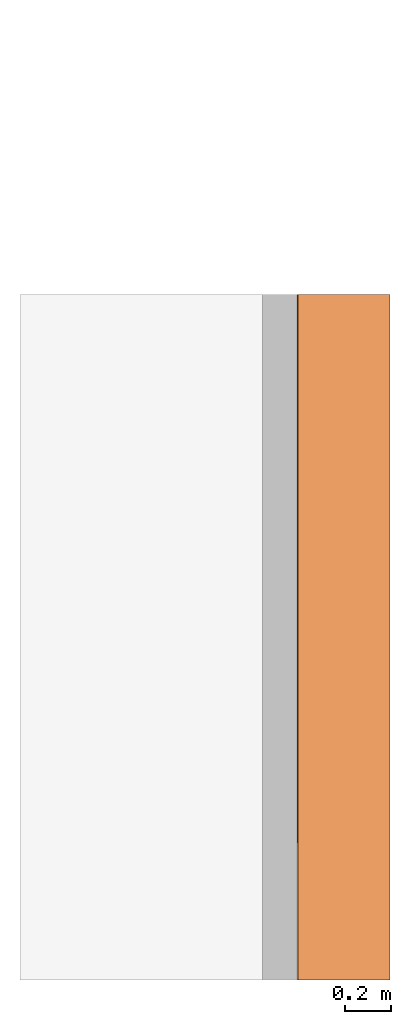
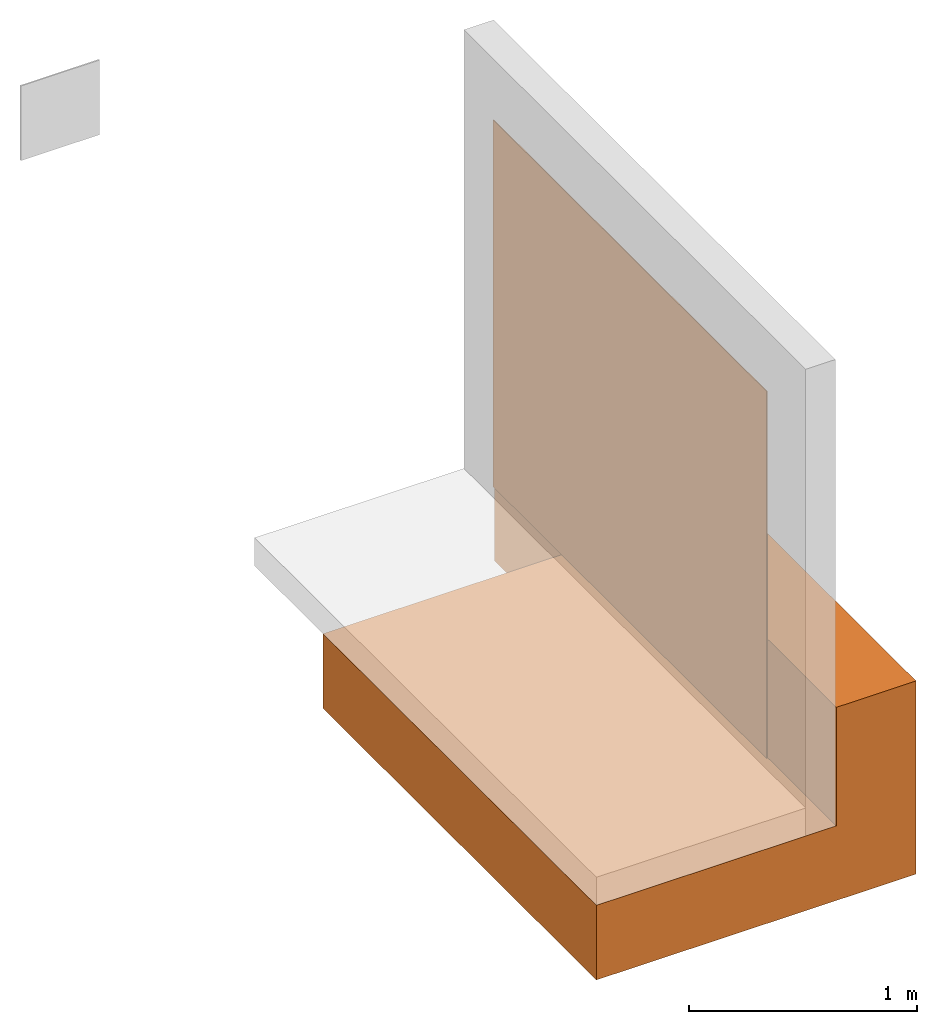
# One storey, part 2 of 2: 1 proxy.
"""IFC2X3 building model written with IfcOpenShell, lengths in metres."""

from ifc_helpers import new_model, entity, si_unit, converted_unit, derived_unit, direction, frame, frame_2d, origin, place, context, subcontext, project, spatial, polyline, circle_curve, parameter, trimmed, segment, composite_curve, rectangle, outline, extrude, source, transform, mapped, material, material_list, type_object, type_shapes, element, save


model = new_model("IFC2X3")

# Units and contexts
model_context = context("Model", 3, precision=1e-05, world=origin(), true_north=direction((6.123031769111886e-17, 1.0)))
body_context = subcontext(model_context, "Body", "Model", "MODEL_VIEW")
ifc_project = project(units=[si_unit("LENGTHUNIT", "METRE"), si_unit("AREAUNIT", "SQUARE_METRE"), si_unit("VOLUMEUNIT", "CUBIC_METRE"), converted_unit("PLANEANGLEUNIT", "DEGREE", entity("IfcRatioMeasure", 0.017453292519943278), si_unit("PLANEANGLEUNIT", "RADIAN"), dimensions=[0, 0, 0, 0, 0, 0, 0]), si_unit("MASSUNIT", "GRAM", prefix="KILO"), derived_unit("MASSDENSITYUNIT", [(si_unit("MASSUNIT", "GRAM", prefix="KILO"), 1), (si_unit("LENGTHUNIT", "METRE"), -3)]), derived_unit("IONCONCENTRATIONUNIT", [(si_unit("MASSUNIT", "GRAM", prefix="KILO"), 1), (si_unit("LENGTHUNIT", "METRE"), -3)]), derived_unit("MOMENTOFINERTIAUNIT", [(si_unit("LENGTHUNIT", "METRE"), 4)]), si_unit("TIMEUNIT", "SECOND"), si_unit("FREQUENCYUNIT", "HERTZ"), si_unit("THERMODYNAMICTEMPERATUREUNIT", "DEGREE_CELSIUS"), derived_unit("THERMALTRANSMITTANCEUNIT", [(si_unit("MASSUNIT", "GRAM", prefix="KILO"), 1), (si_unit("THERMODYNAMICTEMPERATUREUNIT", "KELVIN"), -1), (si_unit("TIMEUNIT", "SECOND"), -3)]), derived_unit("THERMALCONDUCTANCEUNIT", [(si_unit("MASSUNIT", "GRAM", prefix="KILO"), 1), (si_unit("THERMODYNAMICTEMPERATUREUNIT", "KELVIN"), -1), (si_unit("TIMEUNIT", "SECOND"), -3), (si_unit("LENGTHUNIT", "METRE"), 1)]), derived_unit("VOLUMETRICFLOWRATEUNIT", [(si_unit("LENGTHUNIT", "METRE"), 3), (si_unit("TIMEUNIT", "SECOND"), -1)]), derived_unit("MASSFLOWRATEUNIT", [(si_unit("MASSUNIT", "GRAM", prefix="KILO"), 1), (si_unit("TIMEUNIT", "SECOND"), -1)]), derived_unit("ROTATIONALFREQUENCYUNIT", [(si_unit("TIMEUNIT", "SECOND"), -1)]), si_unit("ELECTRICCURRENTUNIT", "AMPERE"), si_unit("ELECTRICVOLTAGEUNIT", "VOLT"), si_unit("POWERUNIT", "WATT"), si_unit("FORCEUNIT", "NEWTON", prefix="KILO"), si_unit("ILLUMINANCEUNIT", "LUX"), si_unit("LUMINOUSFLUXUNIT", "LUMEN"), si_unit("LUMINOUSINTENSITYUNIT", "CANDELA"), derived_unit("USERDEFINED", [(si_unit("MASSUNIT", "GRAM", prefix="KILO"), -1), (si_unit("LENGTHUNIT", "METRE"), -2), (si_unit("TIMEUNIT", "SECOND"), 3), (si_unit("LUMINOUSFLUXUNIT", "LUMEN"), 1)]), derived_unit("USERDEFINED", [(si_unit("MASSUNIT", "GRAM", prefix="KILO"), 1), (si_unit("TIMEUNIT", "SECOND"), -3), (si_unit("LENGTHUNIT", "METRE"), 3), (si_unit("ELECTRICCURRENTUNIT", "AMPERE"), -2)]), derived_unit("SOUNDPOWERUNIT", [(si_unit("MASSUNIT", "GRAM", prefix="KILO"), 1), (si_unit("TIMEUNIT", "SECOND"), -3), (si_unit("LENGTHUNIT", "METRE"), 2)]), derived_unit("SOUNDPRESSUREUNIT", [(si_unit("MASSUNIT", "GRAM", prefix="KILO"), 1), (si_unit("LENGTHUNIT", "METRE"), -1), (si_unit("TIMEUNIT", "SECOND"), -2)]), derived_unit("LINEARVELOCITYUNIT", [(si_unit("LENGTHUNIT", "METRE"), 1), (si_unit("TIMEUNIT", "SECOND"), -1)]), si_unit("PRESSUREUNIT", "PASCAL"), derived_unit("USERDEFINED", [(si_unit("MASSUNIT", "GRAM", prefix="KILO"), 1), (si_unit("LENGTHUNIT", "METRE"), -2), (si_unit("TIMEUNIT", "SECOND"), -2)]), derived_unit("LINEARFORCEUNIT", [(si_unit("MASSUNIT", "GRAM", prefix="KILO"), 1), (si_unit("TIMEUNIT", "SECOND"), -2)]), derived_unit("PLANARFORCEUNIT", [(si_unit("MASSUNIT", "GRAM", prefix="KILO"), 1), (si_unit("LENGTHUNIT", "METRE"), -1), (si_unit("TIMEUNIT", "SECOND"), -2)]), derived_unit("SPECIFICHEATCAPACITYUNIT", [(si_unit("THERMODYNAMICTEMPERATUREUNIT", "KELVIN"), -1), (si_unit("LENGTHUNIT", "METRE"), 2), (si_unit("TIMEUNIT", "SECOND"), -2)]), derived_unit("HEATINGVALUEUNIT", [(si_unit("LENGTHUNIT", "METRE"), 2), (si_unit("TIMEUNIT", "SECOND"), -2)]), derived_unit("VAPORPERMEABILITYUNIT", [(si_unit("LENGTHUNIT", "METRE"), -1), (si_unit("TIMEUNIT", "SECOND"), 1)]), derived_unit("DYNAMICVISCOSITYUNIT", [(si_unit("MASSUNIT", "GRAM", prefix="KILO"), 1), (si_unit("TIMEUNIT", "SECOND"), -1), (si_unit("LENGTHUNIT", "METRE"), -1)]), derived_unit("THERMALEXPANSIONCOEFFICIENTUNIT", [(si_unit("THERMODYNAMICTEMPERATUREUNIT", "KELVIN"), -1)]), derived_unit("MODULUSOFELASTICITYUNIT", [(si_unit("MASSUNIT", "GRAM", prefix="KILO"), 1), (si_unit("LENGTHUNIT", "METRE"), -1), (si_unit("TIMEUNIT", "SECOND"), -2)]), derived_unit("ISOTHERMALMOISTURECAPACITYUNIT", [(si_unit("LENGTHUNIT", "METRE"), 3), (si_unit("MASSUNIT", "GRAM", prefix="KILO"), -1)]), derived_unit("MOISTUREDIFFUSIVITYUNIT", [(si_unit("TIMEUNIT", "SECOND"), -1), (si_unit("LENGTHUNIT", "METRE"), 2)])], contexts=[model_context])

# Site, building, storey
site_placement = place(None, origin())
site = spatial("IfcSite", under=ifc_project, at=site_placement, Name="Default", CompositionType="ELEMENT")
building_placement = place(site_placement, origin())
building = spatial("IfcBuilding", under=site, at=building_placement, CompositionType="ELEMENT")
storey_placement = place(building_placement, frame((0.0, 0.0, -0.0025237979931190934)))
storey = spatial("IfcBuildingStorey", under=building, at=storey_placement, Name="ARQ Térreo", CompositionType="ELEMENT", Elevation=-0.0025237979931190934)

# Proxy
ifc_material_1 = material(Name="#solo")
ifc_material_2 = material(Name="#Geotextil")
ifc_material_3 = material(Name="#Amphibia")
ifc_material_list = material_list([ifc_material_1, ifc_material_2, ifc_material_3])
building_element_proxy_type = type_object("IfcBuildingElementProxyType", Name="IMPER:IMPER", PredefinedType="NOTDEFINED", material=ifc_material_list)
shared_shape = source(origin(), body_context, "Body", "SweptSolid", [
    extrude(rectangle(XDim=2.4000000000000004, YDim=1.2158489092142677, at=frame_2d((-1.1102230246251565e-16, 0.0), x_axis=(1.0, 0.0))), frame((-0.9548559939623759, -1.6541299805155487, -0.402523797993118), z_axis=(0.0, 0.0, 1.0), x_axis=(0.0, 1.0, 0.0)), (0.0, 0.0, 1.0), 0.4000000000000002),
    extrude(rectangle(XDim=2.999999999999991, YDim=0.4039724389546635, at=frame_2d((-1.1102230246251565e-16, 0.0), x_axis=(1.0, 0.0))), frame((-0.1449453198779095, -1.3541299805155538, -0.40252379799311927), z_axis=(0.0, 0.0, 1.0), x_axis=(0.0, 1.0, 0.0)), (0.0, 0.0, 1.0), 1.0348744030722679),
    extrude(outline(composite_curve([segment(polyline([(-0.008387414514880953, -1.0533509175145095), (-0.005387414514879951, -1.0533509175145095)]), True, "CONTINUOUS"), segment(polyline([(-0.005387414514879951, -1.0533509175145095), (-0.005387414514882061, 0.26333772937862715)]), True, "CONTINUOUS"), segment(trimmed(circle_curve(frame_2d((0.0016125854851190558, 0.2633377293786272), x_axis=(1.0, 0.0)), 0.007000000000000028), [parameter(3.053332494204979e-13)], [parameter(179.99999999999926)], True, "PARAMETER"), False, "CONTINUOUS"), segment(trimmed(circle_curve(frame_2d((0.005091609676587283, 0.2633377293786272), x_axis=(1.0, 0.0)), 0.0035209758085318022), [parameter(179.99999999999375)], [parameter(8.651108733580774e-13)], True, "PARAMETER"), False, "CONTINUOUS"), segment(trimmed(circle_curve(frame_2d((0.0018311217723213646, 0.2633377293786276), x_axis=(1.0, 0.0)), 0.00026048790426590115), [parameter(359.9999999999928)], [parameter(180.00000000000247)], True, "PARAMETER"), False, "CONTINUOUS"), segment(polyline([(0.0020916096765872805, 0.26333772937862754), (0.005091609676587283, 0.26333772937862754)]), True, "CONTINUOUS"), segment(trimmed(circle_curve(frame_2d((0.0018311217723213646, 0.2633377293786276), x_axis=(1.0, 0.0)), 0.003260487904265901), [parameter(359.99999999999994)], [parameter(179.99999999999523)], True, "PARAMETER"), True, "CONTINUOUS"), segment(trimmed(circle_curve(frame_2d((0.005091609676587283, 0.2633377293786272), x_axis=(1.0, 0.0)), 0.006520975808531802), [parameter(179.9999999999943)], [parameter(1.0177774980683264e-12)], True, "PARAMETER"), True, "CONTINUOUS"), segment(trimmed(circle_curve(frame_2d((0.0016125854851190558, 0.2633377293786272), x_axis=(1.0, 0.0)), 0.010000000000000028), [parameter(7.124442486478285e-13)], [parameter(179.99999999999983)], True, "PARAMETER"), True, "CONTINUOUS"), segment(polyline([(-0.008387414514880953, 0.2633377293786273), (-0.008387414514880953, -1.0533509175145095)]), True, "CONTINUOUS")], self_intersect=False)), frame((-0.3415093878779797, -1.8541299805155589, 0.26081393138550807), z_axis=(0.0, 1.0, 0.0), x_axis=(1.0, 0.0, 0.0)), (0.0, 0.0, 1.0), 2.0000000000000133),
    extrude(rectangle(XDim=0.003999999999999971, YDim=2.4000000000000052, at=frame_2d((3.382710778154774e-17, 0.0), x_axis=(1.0, 0.0))), frame((-0.3518968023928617, -1.054129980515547, -0.0025237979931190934), z_axis=(0.0, 0.0, 1.0), x_axis=(-1.0, 0.0, 0.0)), (0.0, 0.0, 1.0), 1.965708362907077),
])
type_shapes(building_element_proxy_type, [shared_shape])
proxy_placement = place(storey_placement, frame((0.0, 0.0, 0.0025237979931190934)))
element("IfcBuildingElementProxy", 1, at=proxy_placement, inside=storey, type_object=building_element_proxy_type, material=ifc_material_list, Name="IMPER:IMPER:IMPER : IMPER:IMPER", ObjectType="IMPER:IMPER:IMPER : IMPER:IMPER", context=body_context, shape_type="MappedRepresentation", body=[
    mapped(shared_shape, transform((0.0, 0.0, 0.0), scale=1.0)),
])

save(model, "model.ifc")
